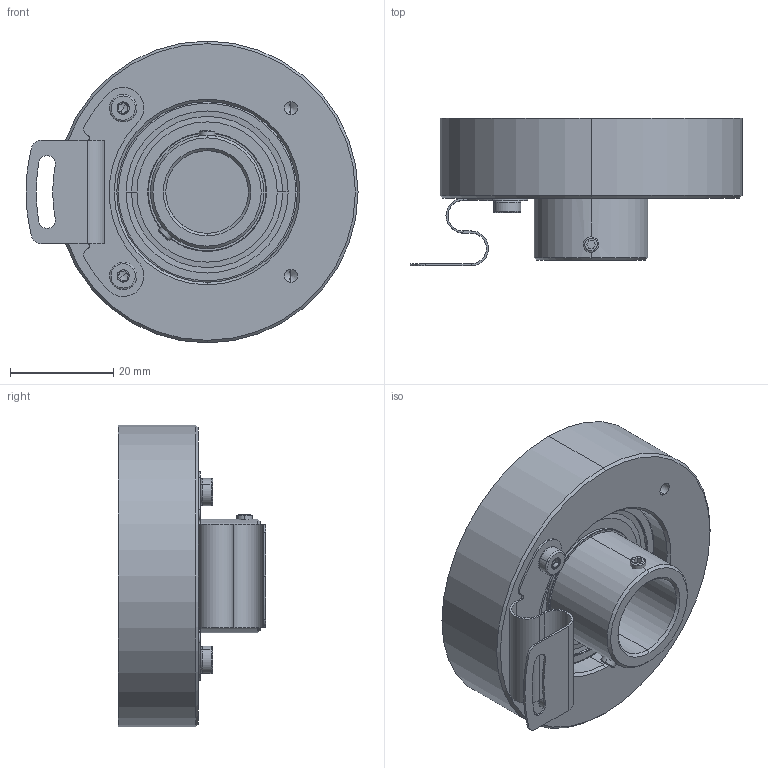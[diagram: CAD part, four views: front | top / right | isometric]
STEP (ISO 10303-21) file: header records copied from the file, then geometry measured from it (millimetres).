
FILE_DESCRIPTION (( 'STEP AP214' ), '1' );
FILE_NAME ('drawing ucd-xgt0-q5b-n.STEP', '2017-05-04T12:37:10', ( '' ), ( '' ), 'SwSTEP 2.0', 'SolidWorks 2017', '' );
FILE_SCHEMA (( 'AUTOMOTIVE_DESIGN' ));
Length unit declared in the file: millimetre
Products named in the file (1): drawing ucd-xgt0-q5b-n
Bounding box: 64.35 x 28.6 x 58.5 mm (x, y, z)
Volume: 36252.2 mm3; surface area: 22123 mm2
Topology: 20 solids, 20 shells, 468 faces, 1067 edges, 598 vertices
Faces by surface type: cone 184, cylinder 147, plane 67, bspline 50, torus 20
Entity records: 19452 total; most frequent: CARTESIAN_POINT 3840, DIRECTION 2321, ORIENTED_EDGE 2022, EDGE_CURVE 1011, AXIS2_PLACEMENT_3D 967, VERTEX_POINT 598, CIRCLE 548, EDGE_LOOP 501
